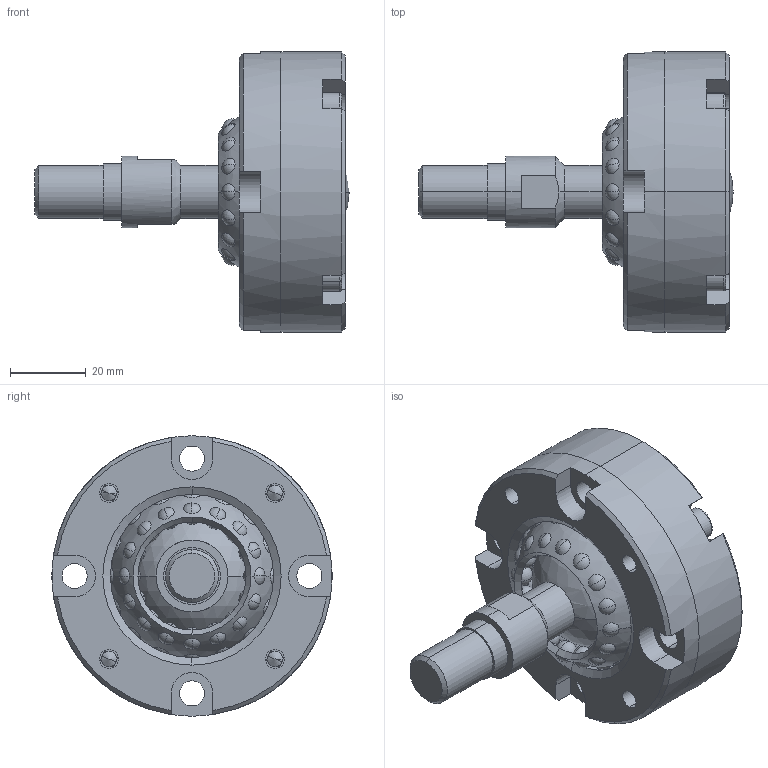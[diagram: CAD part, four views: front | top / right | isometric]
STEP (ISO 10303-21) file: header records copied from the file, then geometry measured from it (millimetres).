
FILE_DESCRIPTION (( 'STEP AP203' ), '1' );
FILE_NAME ('SR JOINT - SRJ024C.STEP', '2010-06-01T19:48:16', ( 'render' ), ( '' ), 'SwSTEP 2.0', 'SolidWorks 2009', '' );
FILE_SCHEMA (( 'CONFIG_CONTROL_DESIGN' ));
Length unit declared in the file: millimetre
Products named in the file (1): SR JOINT - SRJ024C
Bounding box: 83 x 74 x 74 mm (x, y, z)
Surface area: 41198.4 mm2 (no closed solid volume)
Topology: 0 solids, 8 shells, 397 faces, 1046 edges, 721 vertices
Faces by surface type: sphere 226, plane 81, cylinder 55, cone 27, torus 8
Entity records: 12806 total; most frequent: DIRECTION 2550, CARTESIAN_POINT 2205, ORIENTED_EDGE 1880, AXIS2_PLACEMENT_3D 1159, EDGE_CURVE 1013, CIRCLE 761, VERTEX_POINT 714, EDGE_LOOP 579
